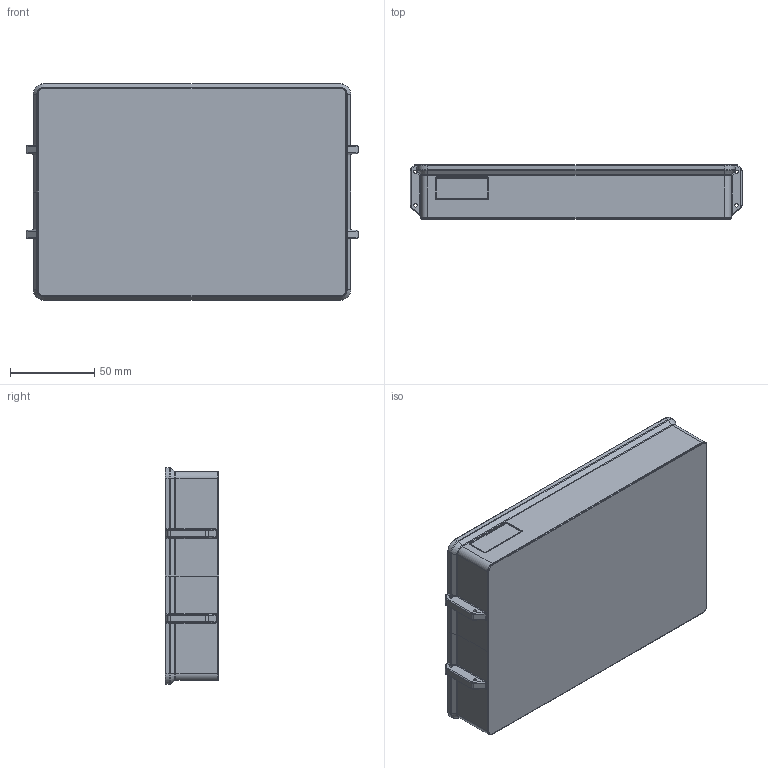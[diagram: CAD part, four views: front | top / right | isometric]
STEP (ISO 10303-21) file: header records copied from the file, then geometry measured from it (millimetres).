
FILE_DESCRIPTION (( 'STEP AP214' ), '1' );
FILE_NAME ('Tiered Storage Box 180x120x30 8 Cell Var 1.STEP', '2024-06-06T19:17:39', ( '' ), ( '' ), 'SwSTEP 2.0', 'SolidWorks 2022', '' );
FILE_SCHEMA (( 'AUTOMOTIVE_DESIGN' ));
Length unit declared in the file: millimetre
Products named in the file (1): Tiered Storage Box 180x120x30 8 Cell Var 1
Bounding box: 197 x 32 x 128.4 mm (x, y, z)
Volume: 111890.8 mm3; surface area: 114055.4 mm2
Topology: 1 solids, 1 shells, 554 faces, 1279 edges, 680 vertices
Faces by surface type: cylinder 243, plane 119, torus 92, bspline 60, sphere 28, cone 12
Entity records: 16608 total; most frequent: CARTESIAN_POINT 4470, DIRECTION 2708, ORIENTED_EDGE 2478, EDGE_CURVE 1239, AXIS2_PLACEMENT_3D 1086, VERTEX_POINT 680, CIRCLE 591, EDGE_LOOP 563
